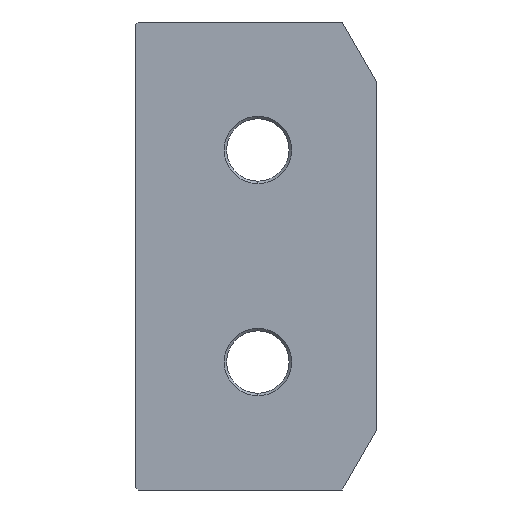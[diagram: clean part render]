
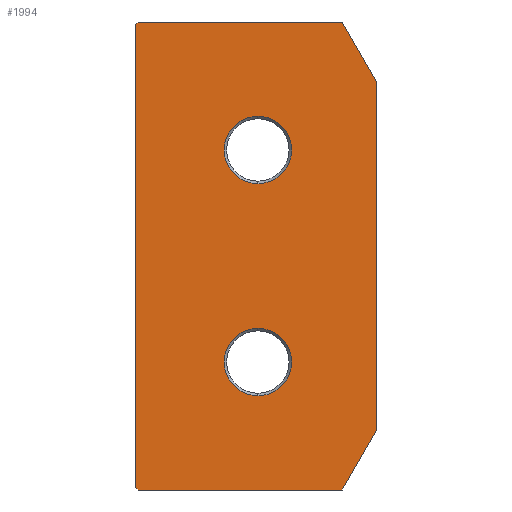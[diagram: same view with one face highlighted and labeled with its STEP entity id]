
A CAD part, front view. The second image highlights one B-rep face of the part: STEP entity #1994.
In plain terms, the highlighted planar face has unit normal (0, -1, 0).
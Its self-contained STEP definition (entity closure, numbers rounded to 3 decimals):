
#15 = VERTEX_POINT ( 'NONE', #1675 ) ;
#24 = DIRECTION ( 'NONE',  ( -0.707, 0., -0.707 ) ) ;
#81 = CARTESIAN_POINT ( 'NONE',  ( 19.6, 0., 17. ) ) ;
#92 = CARTESIAN_POINT ( 'NONE',  ( 0., 0., -37.1 ) ) ;
#93 = LINE ( 'NONE', #3106, #589 ) ;
#120 = VERTEX_POINT ( 'NONE', #2043 ) ;
#137 = ORIENTED_EDGE ( 'NONE', *, *, #2844, .T. ) ;
#142 = ORIENTED_EDGE ( 'NONE', *, *, #3100, .F. ) ;
#185 = VECTOR ( 'NONE', #24, 1000. ) ;
#216 = EDGE_CURVE ( 'NONE', #505, #1077, #1054, .T. ) ;
#228 = ORIENTED_EDGE ( 'NONE', *, *, #1397, .T. ) ;
#338 = LINE ( 'NONE', #1369, #1776 ) ;
#378 = DIRECTION ( 'NONE',  ( 0., 1., 0. ) ) ;
#386 = VECTOR ( 'NONE', #3046, 1000. ) ;
#429 = VERTEX_POINT ( 'NONE', #92 ) ;
#505 = VERTEX_POINT ( 'NONE', #1178 ) ;
#545 = EDGE_CURVE ( 'NONE', #120, #1755, #2823, .T. ) ;
#570 = FACE_BOUND ( 'NONE', #2203, .T. ) ;
#589 = VECTOR ( 'NONE', #1389, 1000. ) ;
#638 = CIRCLE ( 'NONE', #1433, 5.4 ) ;
#663 = DIRECTION ( 'NONE',  ( 0., 1., 0. ) ) ;
#701 = LINE ( 'NONE', #2699, #3148 ) ;
#749 = LINE ( 'NONE', #1288, #185 ) ;
#753 = EDGE_LOOP ( 'NONE', ( #2869, #2008 ) ) ;
#784 = VERTEX_POINT ( 'NONE', #1370 ) ;
#833 = CARTESIAN_POINT ( 'NONE',  ( 19.6, 0., 17. ) ) ;
#952 = VERTEX_POINT ( 'NONE', #1393 ) ;
#964 = CARTESIAN_POINT ( 'NONE',  ( 19.6, 0., -22.4 ) ) ;
#1001 = CARTESIAN_POINT ( 'NONE',  ( 0., 0., -37.5 ) ) ;
#1054 = LINE ( 'NONE', #1749, #1919 ) ;
#1077 = VERTEX_POINT ( 'NONE', #2695 ) ;
#1110 = DIRECTION ( 'NONE',  ( 0., 1., 0. ) ) ;
#1147 = CARTESIAN_POINT ( 'NONE',  ( 0.4, 0., 37.5 ) ) ;
#1178 = CARTESIAN_POINT ( 'NONE',  ( 0.4, 0., -37.5 ) ) ;
#1239 = CARTESIAN_POINT ( 'NONE',  ( 33.115, 0., 37.5 ) ) ;
#1248 = CARTESIAN_POINT ( 'NONE',  ( 19.6, 0., 22.4 ) ) ;
#1288 = CARTESIAN_POINT ( 'NONE',  ( -37.3, 0., -0.2 ) ) ;
#1312 = VERTEX_POINT ( 'NONE', #1248 ) ;
#1341 = CARTESIAN_POINT ( 'NONE',  ( 38.6, 0., -28. ) ) ;
#1364 = ORIENTED_EDGE ( 'NONE', *, *, #2552, .T. ) ;
#1369 = CARTESIAN_POINT ( 'NONE',  ( 0.2, 0., -37.3 ) ) ;
#1370 = CARTESIAN_POINT ( 'NONE',  ( 19.6, 0., 11.6 ) ) ;
#1389 = DIRECTION ( 'NONE',  ( 0., 0., 1. ) ) ;
#1393 = CARTESIAN_POINT ( 'NONE',  ( 0., 0., 37.1 ) ) ;
#1397 = EDGE_CURVE ( 'NONE', #429, #505, #338, .T. ) ;
#1433 = AXIS2_PLACEMENT_3D ( 'NONE', #833, #2076, #2634 ) ;
#1485 = DIRECTION ( 'NONE',  ( 1., 0., 0. ) ) ;
#1506 = AXIS2_PLACEMENT_3D ( 'NONE', #81, #1110, #2868 ) ;
#1522 = FACE_BOUND ( 'NONE', #753, .T. ) ;
#1561 = VERTEX_POINT ( 'NONE', #1147 ) ;
#1660 = EDGE_CURVE ( 'NONE', #2119, #15, #1770, .T. ) ;
#1675 = CARTESIAN_POINT ( 'NONE',  ( 33.115, 0., 37.5 ) ) ;
#1680 = DIRECTION ( 'NONE',  ( 0., 0., 1. ) ) ;
#1709 = EDGE_CURVE ( 'NONE', #1561, #952, #749, .T. ) ;
#1749 = CARTESIAN_POINT ( 'NONE',  ( 0., 0., -37.5 ) ) ;
#1752 = AXIS2_PLACEMENT_3D ( 'NONE', #3193, #663, #1680 ) ;
#1755 = VERTEX_POINT ( 'NONE', #964 ) ;
#1770 = LINE ( 'NONE', #1239, #3243 ) ;
#1776 = VECTOR ( 'NONE', #2836, 1000. ) ;
#1785 = ORIENTED_EDGE ( 'NONE', *, *, #1870, .F. ) ;
#1801 = EDGE_LOOP ( 'NONE', ( #142, #228, #2391, #1364, #1904, #2013, #1785, #2127 ) ) ;
#1823 = AXIS2_PLACEMENT_3D ( 'NONE', #1955, #378, #2187 ) ;
#1870 = EDGE_CURVE ( 'NONE', #1561, #15, #701, .T. ) ;
#1904 = ORIENTED_EDGE ( 'NONE', *, *, #2664, .T. ) ;
#1919 = VECTOR ( 'NONE', #2549, 1000. ) ;
#1936 = VERTEX_POINT ( 'NONE', #1341 ) ;
#1955 = CARTESIAN_POINT ( 'NONE',  ( 19.6, 0., -17. ) ) ;
#1994 = ADVANCED_FACE ( 'NONE', ( #1522, #570, #2584 ), #3264, .T. ) ;
#2008 = ORIENTED_EDGE ( 'NONE', *, *, #545, .T. ) ;
#2013 = ORIENTED_EDGE ( 'NONE', *, *, #1660, .T. ) ;
#2043 = CARTESIAN_POINT ( 'NONE',  ( 19.6, 0., -11.6 ) ) ;
#2076 = DIRECTION ( 'NONE',  ( 0., 1., 0. ) ) ;
#2095 = VECTOR ( 'NONE', #2621, 1000. ) ;
#2119 = VERTEX_POINT ( 'NONE', #3054 ) ;
#2127 = ORIENTED_EDGE ( 'NONE', *, *, #1709, .T. ) ;
#2187 = DIRECTION ( 'NONE',  ( 0., 0., 1. ) ) ;
#2203 = EDGE_LOOP ( 'NONE', ( #137, #2679 ) ) ;
#2262 = DIRECTION ( 'NONE',  ( -0.5, 0., 0.866 ) ) ;
#2307 = EDGE_CURVE ( 'NONE', #1312, #784, #2934, .T. ) ;
#2391 = ORIENTED_EDGE ( 'NONE', *, *, #216, .T. ) ;
#2506 = CARTESIAN_POINT ( 'NONE',  ( 0., 0., -37.5 ) ) ;
#2515 = DIRECTION ( 'NONE',  ( 0., -1., 0. ) ) ;
#2529 = CIRCLE ( 'NONE', #1752, 5.4 ) ;
#2549 = DIRECTION ( 'NONE',  ( 1., 0., 0. ) ) ;
#2552 = EDGE_CURVE ( 'NONE', #1077, #1936, #2802, .T. ) ;
#2584 = FACE_OUTER_BOUND ( 'NONE', #1801, .T. ) ;
#2621 = DIRECTION ( 'NONE',  ( 0.5, 0., 0.866 ) ) ;
#2634 = DIRECTION ( 'NONE',  ( 0., 0., 1. ) ) ;
#2664 = EDGE_CURVE ( 'NONE', #1936, #2119, #93, .T. ) ;
#2679 = ORIENTED_EDGE ( 'NONE', *, *, #2307, .T. ) ;
#2695 = CARTESIAN_POINT ( 'NONE',  ( 33.115, 0., -37.5 ) ) ;
#2699 = CARTESIAN_POINT ( 'NONE',  ( 0., 0., 37.5 ) ) ;
#2779 = LINE ( 'NONE', #2506, #386 ) ;
#2802 = LINE ( 'NONE', #3246, #2095 ) ;
#2804 = DIRECTION ( 'NONE',  ( 0., 0., -1. ) ) ;
#2823 = CIRCLE ( 'NONE', #1823, 5.4 ) ;
#2836 = DIRECTION ( 'NONE',  ( 0.707, 0., -0.707 ) ) ;
#2844 = EDGE_CURVE ( 'NONE', #784, #1312, #638, .T. ) ;
#2868 = DIRECTION ( 'NONE',  ( 0., 0., 1. ) ) ;
#2869 = ORIENTED_EDGE ( 'NONE', *, *, #2956, .T. ) ;
#2934 = CIRCLE ( 'NONE', #1506, 5.4 ) ;
#2956 = EDGE_CURVE ( 'NONE', #1755, #120, #2529, .T. ) ;
#3046 = DIRECTION ( 'NONE',  ( 0., 0., 1. ) ) ;
#3054 = CARTESIAN_POINT ( 'NONE',  ( 38.6, 0., 28. ) ) ;
#3100 = EDGE_CURVE ( 'NONE', #429, #952, #2779, .T. ) ;
#3106 = CARTESIAN_POINT ( 'NONE',  ( 38.6, 0., -37.5 ) ) ;
#3143 = AXIS2_PLACEMENT_3D ( 'NONE', #1001, #2515, #2804 ) ;
#3148 = VECTOR ( 'NONE', #1485, 1000. ) ;
#3193 = CARTESIAN_POINT ( 'NONE',  ( 19.6, 0., -17. ) ) ;
#3243 = VECTOR ( 'NONE', #2262, 1000. ) ;
#3246 = CARTESIAN_POINT ( 'NONE',  ( 33.115, 0., -37.5 ) ) ;
#3264 = PLANE ( 'NONE',  #3143 ) ;
